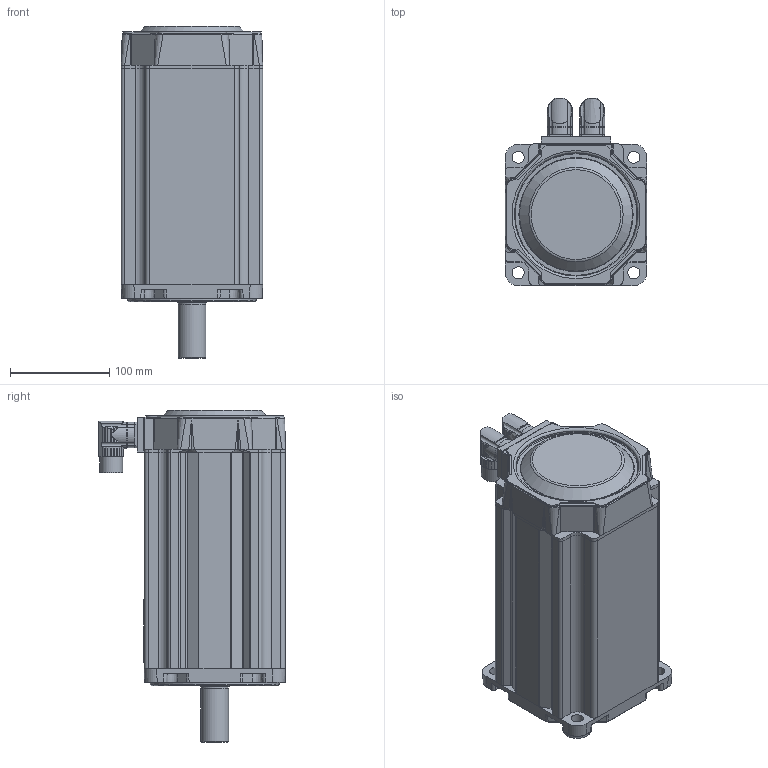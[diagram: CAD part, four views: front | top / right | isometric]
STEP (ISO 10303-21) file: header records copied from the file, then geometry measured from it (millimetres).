
FILE_DESCRIPTION((''),'2;1');
FILE_NAME('C:\CAD_work\Dummy_Modeling_Project_02-12-05\3D MODELS\MPP1424XXX_NPSB.stp','2005-12-20T17:30:54',('jevans'),(''),'Autodesk Inventor 10','Autodesk Inventor 10','');
FILE_SCHEMA(('AUTOMOTIVE_DESIGN { 1 0 10303 214 1 1 1 1 }'));
Length unit declared in the file: inch
Products named in the file (1): MPP142_MOTOR
Bounding box: 142.75 x 188.8 x 335.28 mm (x, y, z)
Volume: 4811013.2 mm3; surface area: 262932.8 mm2
Topology: 3 solids, 3 shells, 905 faces, 2284 edges, 1422 vertices
Faces by surface type: bspline 336, cylinder 287, plane 224, cone 35, torus 21, sphere 2
Full cylindrical faces by diameter (mm): 1.143 x17, 2.032 x6, 2.794 x2, 19.05 x1, 19.685 x1, 22.86 x1, 27.645 x1, 28.001 x1, 29.921 x1, 29.997 x1, 36.83 x1, 55.88 x1, 66.04 x1, 71.526 x1, 72.009 x1, 72.034 x2, 76.352 x1, 80.95 x1, 124.46 x1, 129.997 x1
Entity records: 37223 total; most frequent: CARTESIAN_POINT 17759, ORIENTED_EDGE 4334, DIRECTION 3475, EDGE_CURVE 2167, VERTEX_POINT 1398, AXIS2_PLACEMENT_3D 1344, EDGE_LOOP 1053, FACE_OUTER_BOUND 905
